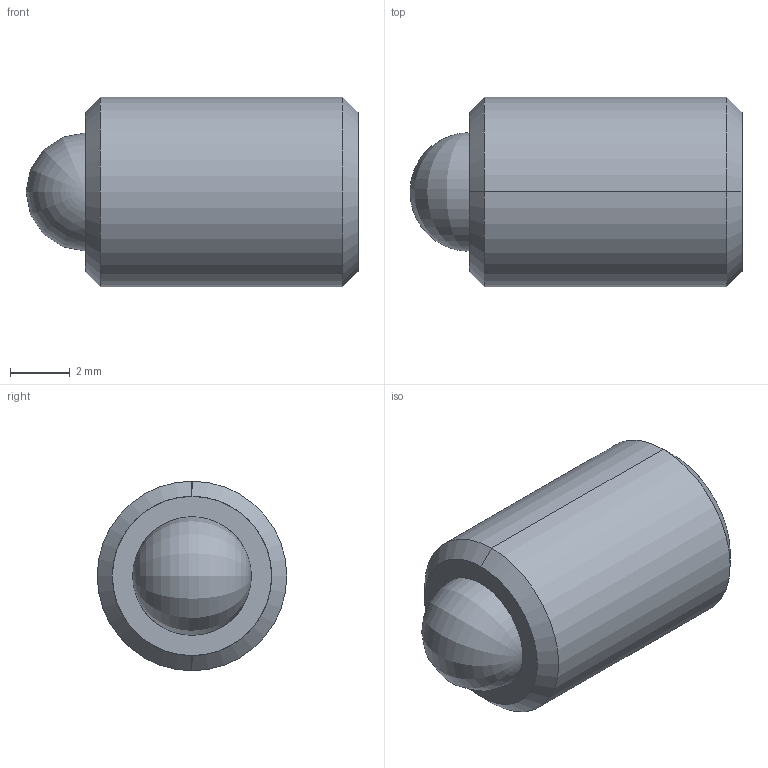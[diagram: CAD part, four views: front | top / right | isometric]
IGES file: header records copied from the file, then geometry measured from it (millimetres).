
Start section: SolidWorks IGES file using analytic representation for surfaces
Global section: file name: C:\Users\workpc\Desktop\KMA Solidworks\TS250-100 Series\TS250-100-438.IGS; native system: SolidWorks 2013; preprocessor: SolidWorks 2013; author: workpc; date: 130211.172519; units: inch
Bounding box: 11.12 x 6.35 x 6.35 mm (x, y, z)
Surface area: 326.2 mm2 (no closed solid volume)
Topology: 0 solids, 0 shells, 20 faces, 204 edges, 200 vertices
Faces by surface type: revolution 10, bspline 10
